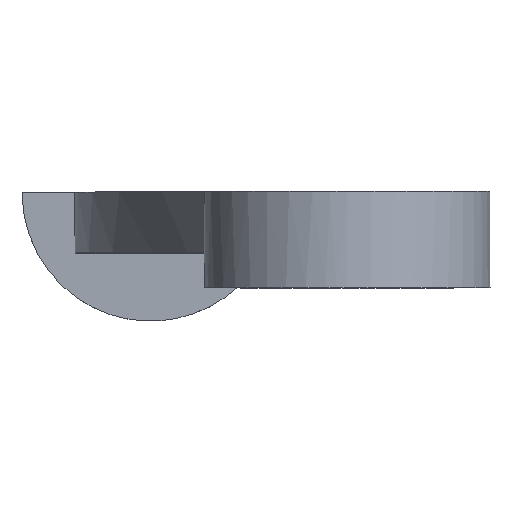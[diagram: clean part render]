
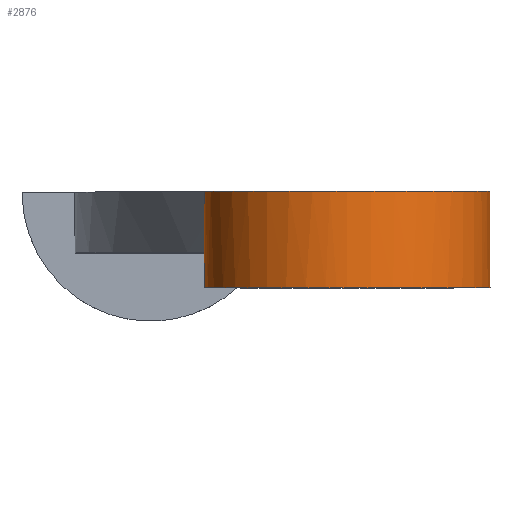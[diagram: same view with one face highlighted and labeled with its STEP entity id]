
A CAD part, top view. The second image highlights one B-rep face of the part: STEP entity #2876.
In plain terms, the highlighted cylindrical face has radius 40 mm (diameter 80 mm), a full revolution.
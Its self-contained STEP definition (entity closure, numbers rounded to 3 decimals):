
#11=DIRECTION('',(0.0,0.0,1.0));
#31=DIRECTION('',(0.0,1.0,0.0));
#1048=VECTOR('',#31,27.0);
#1937=CARTESIAN_POINT('',(-220.0,13.0,315.0));
#2350=CARTESIAN_POINT('',(-220.0,13.0,275.0));
#2351=CARTESIAN_POINT('',(-180.0,13.,275.0));
#2352=CARTESIAN_POINT('',(-180.0,13.0,315.0));
#2353=CARTESIAN_POINT('',(-180.0,13.,355.0));
#2354=CARTESIAN_POINT('',(-220.0,13.0,355.0));
#2355=(BOUNDED_CURVE()B_SPLINE_CURVE(2,(#2354,#2353,#2352,#2351,#2350),.UNSPECIFIED.,.U.,.U.)B_SPLINE_CURVE_WITH_KNOTS((3,2,3),(0.0,0.5,1.0),.UNSPECIFIED.)CURVE()GEOMETRIC_REPRESENTATION_ITEM()RATIONAL_B_SPLINE_CURVE((1.0,0.707,1.0,0.707,1.0))REPRESENTATION_ITEM(''));
#2356=VERTEX_POINT('',#2350);
#2357=VERTEX_POINT('',#2354);
#2358=EDGE_CURVE('',#2357,#2356,#2355,.T.);
#2360=CARTESIAN_POINT('',(-260.0,13.,355.0));
#2361=CARTESIAN_POINT('',(-260.0,13.0,315.0));
#2362=CARTESIAN_POINT('',(-260.0,13.,275.0));
#2363=(BOUNDED_CURVE()B_SPLINE_CURVE(2,(#2350,#2362,#2361,#2360,#2354),.UNSPECIFIED.,.U.,.U.)B_SPLINE_CURVE_WITH_KNOTS((3,2,3),(0.0,0.5,1.0),.UNSPECIFIED.)CURVE()GEOMETRIC_REPRESENTATION_ITEM()RATIONAL_B_SPLINE_CURVE((1.0,0.707,1.0,0.707,1.0))REPRESENTATION_ITEM(''));
#2364=EDGE_CURVE('',#2356,#2357,#2363,.T.);
#2408=CARTESIAN_POINT('',(-226.37,23.0,275.51));
#2411=VERTEX_POINT('',#2408);
#2414=CARTESIAN_POINT('',(-226.37,27.25,275.51));
#2415=CARTESIAN_POINT('',(-226.37,31.5,275.51));
#2416=CARTESIAN_POINT('',(-226.37,35.75,275.51));
#2417=CARTESIAN_POINT('',(-226.37,40.0,275.51));
#2418=B_SPLINE_CURVE_WITH_KNOTS('',4,(#2417,#2416,#2415,#2414,#2408),.UNSPECIFIED.,.U.,.U.,(5,5),(0.5,1.5),.UNSPECIFIED.);
#2419=VERTEX_POINT('',#2417);
#2420=EDGE_CURVE('',#2419,#2411,#2418,.T.);
#2647=CARTESIAN_POINT('',(-202.145,40.0,271.603));
#2648=CARTESIAN_POINT('',(-187.684,40.0,291.427));
#2649=CARTESIAN_POINT('',(-173.223,40.0,311.252));
#2650=CARTESIAN_POINT('',(-184.343,40.0,333.126));
#2651=CARTESIAN_POINT('',(-195.462,40.0,355.0));
#2652=CARTESIAN_POINT('',(-220.0,40.0,355.0));
#2653=(BOUNDED_CURVE()B_SPLINE_CURVE(2,(#2652,#2651,#2650,#2649,#2648,#2647,#2417),.UNSPECIFIED.,.U.,.U.)B_SPLINE_CURVE_WITH_KNOTS((3,2,2,3),(0.0,0.333,0.667,1.0),.UNSPECIFIED.)CURVE()GEOMETRIC_REPRESENTATION_ITEM()RATIONAL_B_SPLINE_CURVE((1.0,0.852,1.0,0.852,1.0,0.852,1.0))REPRESENTATION_ITEM(''));
#2654=VERTEX_POINT('',#2652);
#2655=EDGE_CURVE('',#2654,#2419,#2653,.T.);
#2657=CARTESIAN_POINT('',(-243.555,40.0,355.));
#2658=CARTESIAN_POINT('',(-254.98,40.0,334.401));
#2659=CARTESIAN_POINT('',(-266.405,40.0,313.801));
#2660=CARTESIAN_POINT('',(-253.932,40.0,293.819));
#2661=(BOUNDED_CURVE()B_SPLINE_CURVE(2,(#2660,#2659,#2658,#2657,#2652),.UNSPECIFIED.,.U.,.U.)B_SPLINE_CURVE_WITH_KNOTS((3,2,3),(0.0,0.5,1.0),.UNSPECIFIED.)CURVE()GEOMETRIC_REPRESENTATION_ITEM()RATIONAL_B_SPLINE_CURVE((1.0,0.862,1.0,0.862,1.0))REPRESENTATION_ITEM(''));
#2662=VERTEX_POINT('',#2660);
#2663=EDGE_CURVE('',#2662,#2654,#2661,.T.);
#2837=AXIS2_PLACEMENT_3D('',#1937,#31,#11);
#2838=CYLINDRICAL_SURFACE('',#2837,40.0);
#2839=ORIENTED_EDGE('',*,*,#2655,.F.);
#2840=ORIENTED_EDGE('',*,*,#2420,.F.);
#2841=CARTESIAN_POINT('',(-251.5,23.0,290.347));
#2842=CARTESIAN_POINT('',(-241.841,23.0,278.006));
#2843=(BOUNDED_CURVE()B_SPLINE_CURVE(2,(#2408,#2842,#2841),.UNSPECIFIED.,.U.,.U.)B_SPLINE_CURVE_WITH_KNOTS((3,3),(0.0,1.0),.UNSPECIFIED.)CURVE()GEOMETRIC_REPRESENTATION_ITEM()RATIONAL_B_SPLINE_CURVE((1.0,0.931,1.0))REPRESENTATION_ITEM(''));
#2844=VERTEX_POINT('',#2841);
#2845=EDGE_CURVE('',#2411,#2844,#2843,.T.);
#2846=ORIENTED_EDGE('',*,*,#2845,.F.);
#2847=CARTESIAN_POINT('',(-253.932,23.0,293.819));
#2848=CARTESIAN_POINT('',(-252.808,23.0,292.019));
#2849=(BOUNDED_CURVE()B_SPLINE_CURVE(2,(#2841,#2848,#2847),.UNSPECIFIED.,.U.,.U.)B_SPLINE_CURVE_WITH_KNOTS((3,3),(0.0,1.0),.UNSPECIFIED.)CURVE()GEOMETRIC_REPRESENTATION_ITEM()RATIONAL_B_SPLINE_CURVE((1.0,0.999,1.0))REPRESENTATION_ITEM(''));
#2850=VERTEX_POINT('',#2847);
#2851=EDGE_CURVE('',#2844,#2850,#2849,.T.);
#2852=ORIENTED_EDGE('',*,*,#2851,.F.);
#2853=CARTESIAN_POINT('',(-253.932,23.75,293.819));
#2854=CARTESIAN_POINT('',(-253.932,24.5,293.819));
#2855=CARTESIAN_POINT('',(-253.932,25.25,293.819));
#2856=CARTESIAN_POINT('',(-253.932,26.,293.819));
#2857=B_SPLINE_CURVE_WITH_KNOTS('',4,(#2856,#2855,#2854,#2853,#2847),.UNSPECIFIED.,.U.,.U.,(5,5),(0.912,1.912),.UNSPECIFIED.);
#2858=VERTEX_POINT('',#2856);
#2859=EDGE_CURVE('',#2858,#2850,#2857,.T.);
#2860=ORIENTED_EDGE('',*,*,#2859,.T.);
#2861=CARTESIAN_POINT('',(-253.932,29.5,293.819));
#2862=CARTESIAN_POINT('',(-253.932,33.,293.819));
#2863=CARTESIAN_POINT('',(-253.932,36.5,293.819));
#2864=B_SPLINE_CURVE_WITH_KNOTS('',4,(#2660,#2863,#2862,#2861,#2856),.UNSPECIFIED.,.U.,.U.,(5,5),(0.5,1.5),.UNSPECIFIED.);
#2865=EDGE_CURVE('',#2662,#2858,#2864,.T.);
#2866=ORIENTED_EDGE('',*,*,#2865,.T.);
#2867=ORIENTED_EDGE('',*,*,#2663,.F.);
#2868=LINE('',#2354,#1048);
#2869=EDGE_CURVE('',#2357,#2654,#2868,.T.);
#2870=ORIENTED_EDGE('',*,*,#2869,.T.);
#2871=ORIENTED_EDGE('',*,*,#2364,.T.);
#2872=ORIENTED_EDGE('',*,*,#2358,.T.);
#2873=ORIENTED_EDGE('',*,*,#2869,.F.);
#2874=EDGE_LOOP('',(#2873,#2872,#2871,#2870,#2867,#2866,#2860,#2852,#2846,#2840,#2839));
#2875=FACE_BOUND('',#2874,.T.);
#2876=ADVANCED_FACE('',(#2875),#2838,.T.);
